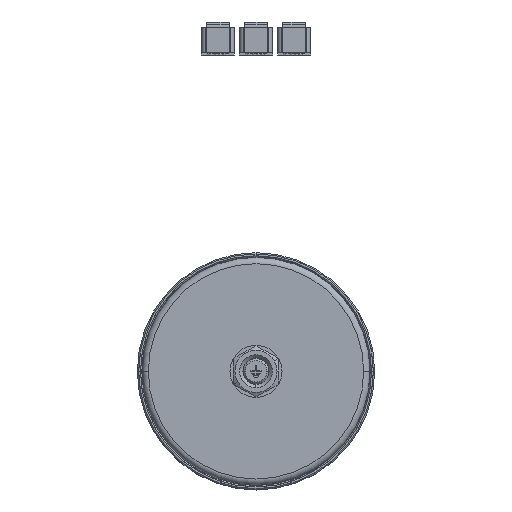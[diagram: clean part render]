
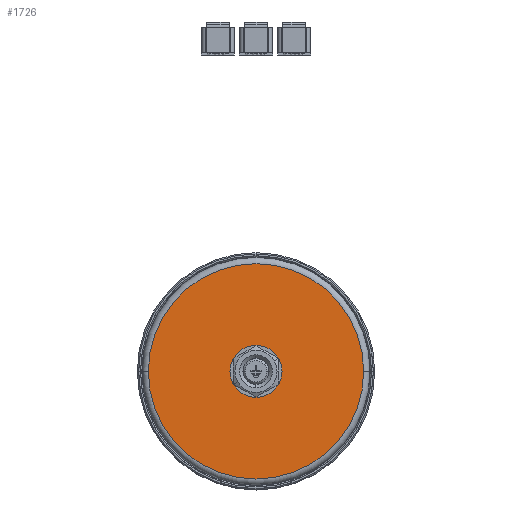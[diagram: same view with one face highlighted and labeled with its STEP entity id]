
A CAD part, front view. The second image highlights one B-rep face of the part: STEP entity #1726.
In plain terms, the highlighted planar face has unit normal (0, -1, 0).
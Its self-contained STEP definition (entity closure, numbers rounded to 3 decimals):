
#491=CARTESIAN_POINT('',(0.,1.5,0.));
#492=DIRECTION('',(0.,-1.,0.));
#493=DIRECTION('',(-1.,0.,0.));
#494=AXIS2_PLACEMENT_3D('',#491,#492,#493);
#496=CARTESIAN_POINT('',(0.,1.5,0.));
#497=DIRECTION('',(0.,-1.,0.));
#498=DIRECTION('',(1.,0.,0.));
#499=AXIS2_PLACEMENT_3D('',#496,#497,#498);
#501=CARTESIAN_POINT('',(0.,1.5,0.));
#502=DIRECTION('',(0.,1.,0.));
#503=DIRECTION('',(-1.,0.,0.));
#504=AXIS2_PLACEMENT_3D('',#501,#502,#503);
#506=CARTESIAN_POINT('',(0.,1.5,0.));
#507=DIRECTION('',(0.,1.,0.));
#508=DIRECTION('',(1.,0.,0.));
#509=AXIS2_PLACEMENT_3D('',#506,#507,#508);
#887=CARTESIAN_POINT('',(-7.5,1.5,0.));
#888=CARTESIAN_POINT('',(7.5,1.5,0.));
#889=VERTEX_POINT('',#887);
#890=VERTEX_POINT('',#888);
#979=CARTESIAN_POINT('',(-42.4,1.5,0.));
#980=CARTESIAN_POINT('',(42.4,1.5,0.));
#981=VERTEX_POINT('',#979);
#982=VERTEX_POINT('',#980);
#1711=CARTESIAN_POINT('',(0.,1.5,0.));
#1712=DIRECTION('',(0.,-1.,0.));
#1713=DIRECTION('',(-1.,0.,0.));
#1714=AXIS2_PLACEMENT_3D('',#1711,#1712,#1713);
#1715=PLANE('',#1714);
#1716=ORIENTED_EDGE('',*,*,#1678,.T.);
#1717=ORIENTED_EDGE('',*,*,#1693,.T.);
#1718=EDGE_LOOP('',(#1716,#1717));
#1719=FACE_OUTER_BOUND('',#1718,.F.);
#1721=ORIENTED_EDGE('',*,*,#1720,.T.);
#1723=ORIENTED_EDGE('',*,*,#1722,.T.);
#1724=EDGE_LOOP('',(#1721,#1723));
#1725=FACE_BOUND('',#1724,.F.);
#1726=ADVANCED_FACE('',(#1719,#1725),#1715,.T.);
#495=CIRCLE('',#494,7.5);
#500=CIRCLE('',#499,7.5);
#505=CIRCLE('',#504,42.4);
#510=CIRCLE('',#509,42.4);
#1678=EDGE_CURVE('',#981,#982,#505,.T.);
#1693=EDGE_CURVE('',#982,#981,#510,.T.);
#1720=EDGE_CURVE('',#889,#890,#495,.T.);
#1722=EDGE_CURVE('',#890,#889,#500,.T.);
